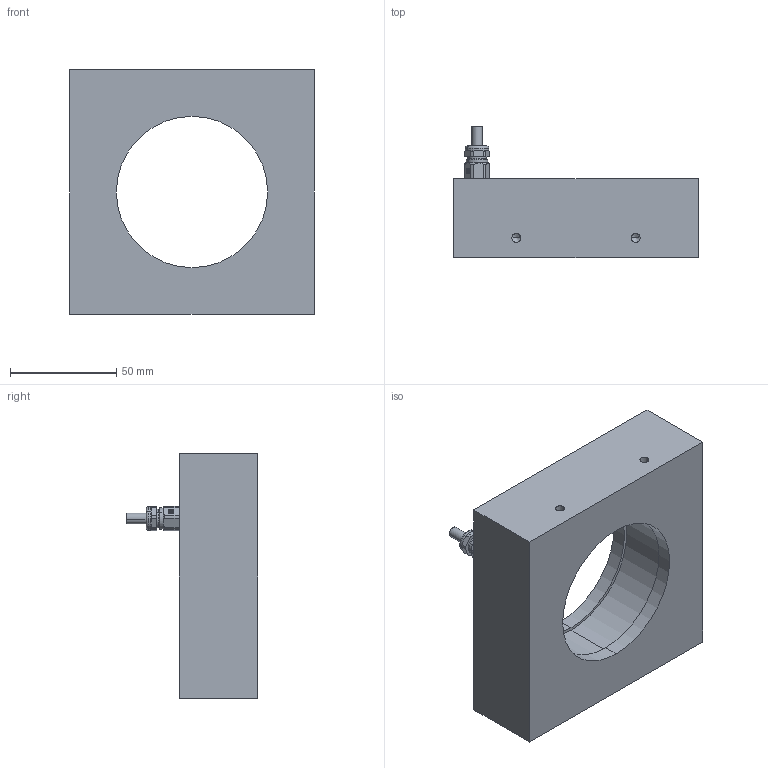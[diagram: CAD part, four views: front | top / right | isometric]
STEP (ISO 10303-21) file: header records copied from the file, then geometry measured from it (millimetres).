
FILE_DESCRIPTION (( 'STEP AP214' ), '1' );
FILE_NAME ('L1006.STEP', '2021-03-15T12:45:44', ( '' ), ( '' ), 'SwSTEP 2.0', 'SolidWorks 2021', '' );
FILE_SCHEMA (( 'AUTOMOTIVE_DESIGN' ));
Length unit declared in the file: millimetre
Products named in the file (4): L1G001006,Gehäuse-einfach; Kabel ø5; L1006; SKINDICHT_MINI_M_8x1
Assembly tree (3 placements, depth 2):
  L1006
    L1G001006,Gehäuse-einfach
    Kabel ø5
    SKINDICHT_MINI_M_8x1
Bounding box: 115 x 61.83 x 115 mm (x, y, z)
Volume: 334944.8 mm3; surface area: 47788.6 mm2
Topology: 3 solids, 4 shells, 158 faces, 383 edges, 232 vertices
Faces by surface type: cylinder 71, plane 45, cone 34, torus 8
Entity records: 4941 total; most frequent: CARTESIAN_POINT 871, DIRECTION 843, ORIENTED_EDGE 734, EDGE_CURVE 367, AXIS2_PLACEMENT_3D 336, VERTEX_POINT 232, EDGE_LOOP 179, CIRCLE 172
